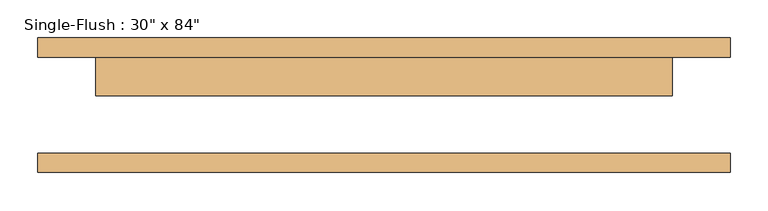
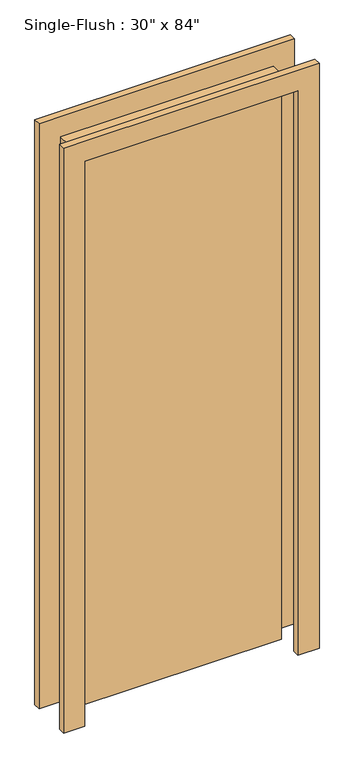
"""IFC4 building model written with IfcOpenShell, lengths in millimetres: door geometry."""

from ifc_helpers import new_model, si_unit, frame, origin, origin_with_axes, place, context, project, spatial, polyline, outline, extrude, source, transform, mapped, element, save


def door_4d6c7550(model_context):
    return source(origin(), model_context, "Body", "SweptSolid", [
        extrude(outline(polyline([(2209.8, -457.2), (0.0, -457.2), (0.0, -381.0), (2133.6, -381.0), (2133.6, 381.0), (0.0, 381.0), (0.0, 457.2), (2209.8, 457.2), (2209.8, -457.2)])), frame((0.0, 63.5, 0.0), z_axis=(0.0, 1.0, 0.0), x_axis=(0.0, 0.0, 1.0)), (0.0, 0.0, 1.0), 25.4),
        extrude(outline(polyline([(2209.8, 457.2), (2209.8, -457.2), (0.0, -457.2), (0.0, -381.0), (2133.6, -381.0), (2133.6, 381.0), (0.0, 381.0), (0.0, 457.2), (2209.8, 457.2)])), frame((0.0, -88.9, 0.0), z_axis=(0.0, 1.0, 0.0), x_axis=(0.0, 0.0, 1.0)), (0.0, 0.0, 1.0), 25.4),
        extrude(outline(polyline([(381.0, 12.7), (-381.0, 12.7), (-381.0, 63.5), (381.0, 63.5), (381.0, 12.7)])), origin_with_axes(), (0.0, 0.0, 1.0), 2133.6),
    ])


if __name__ == "__main__":
    model = new_model("IFC4")
    model_context = context("Model", 3, world=origin())
    ifc_project = project(units=[si_unit("LENGTHUNIT", "METRE", prefix="MILLI")], contexts=[model_context])
    site = spatial("IfcSite", under=ifc_project)
    building = spatial("IfcBuilding", under=site)
    placement = place(None, origin())
    door_shape = door_4d6c7550(model_context)
    element("IfcDoor", 1, ObjectType="Single-Flush : 30\" x 84\"", at=placement, inside=building, context=model_context, shape_type="MappedRepresentation", body=[
        mapped(door_shape, transform((0.0, 0.0, 0.0), x_axis=(1.0, 0.0, 0.0), y_axis=(0.0, 1.0, 0.0), z_axis=(0.0, 0.0, 1.0))),
    ])
    save(model, "model.ifc")
